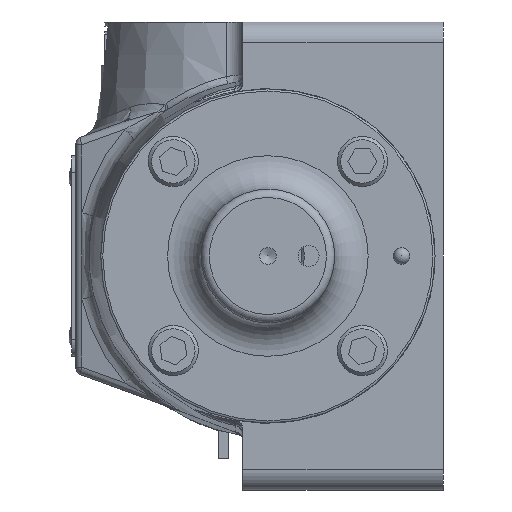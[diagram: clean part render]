
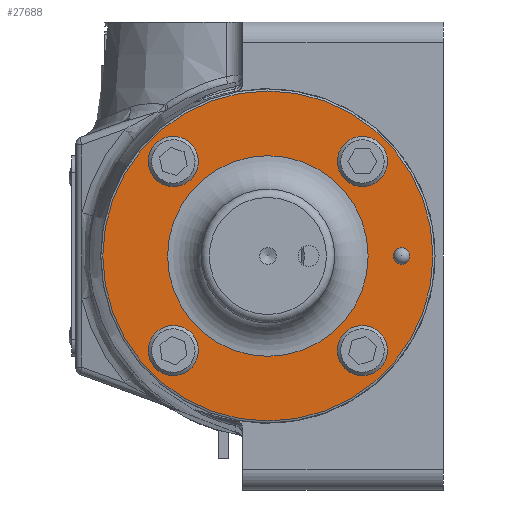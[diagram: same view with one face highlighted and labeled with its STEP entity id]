
A CAD part, left-side view. The second image highlights one B-rep face of the part: STEP entity #27688.
In plain terms, the highlighted planar face has unit normal (-1, 0, 0).
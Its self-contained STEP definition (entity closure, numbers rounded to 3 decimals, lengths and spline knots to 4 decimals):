
#5254=FACE_BOUND('',#8960,.T.);
#5255=FACE_BOUND('',#8961,.T.);
#5256=FACE_BOUND('',#8962,.T.);
#5257=FACE_BOUND('',#8963,.T.);
#5258=FACE_BOUND('',#8964,.T.);
#5259=FACE_BOUND('',#8965,.T.);
#6888=FACE_OUTER_BOUND('',#8959,.T.);
#8959=EDGE_LOOP('',(#21925));
#8960=EDGE_LOOP('',(#21926));
#8961=EDGE_LOOP('',(#21927));
#8962=EDGE_LOOP('',(#21928));
#8963=EDGE_LOOP('',(#21929));
#8964=EDGE_LOOP('',(#21930));
#8965=EDGE_LOOP('',(#21931));
#10361=CIRCLE('',#29863,3.1353);
#10362=CIRCLE('',#29864,0.4763);
#10363=CIRCLE('',#29865,0.4763);
#10364=CIRCLE('',#29866,0.4763);
#10365=CIRCLE('',#29867,0.4763);
#10366=CIRCLE('',#29868,0.1588);
#10367=CIRCLE('',#29869,1.905);
#12446=VERTEX_POINT('',#55973);
#12447=VERTEX_POINT('',#55975);
#12448=VERTEX_POINT('',#55977);
#12449=VERTEX_POINT('',#55979);
#12450=VERTEX_POINT('',#55981);
#12451=VERTEX_POINT('',#55983);
#12452=VERTEX_POINT('',#55985);
#15726=EDGE_CURVE('',#12446,#12446,#10361,.T.);
#15727=EDGE_CURVE('',#12447,#12447,#10362,.T.);
#15728=EDGE_CURVE('',#12448,#12448,#10363,.T.);
#15729=EDGE_CURVE('',#12449,#12449,#10364,.T.);
#15730=EDGE_CURVE('',#12450,#12450,#10365,.T.);
#15731=EDGE_CURVE('',#12451,#12451,#10366,.T.);
#15732=EDGE_CURVE('',#12452,#12452,#10367,.T.);
#21925=ORIENTED_EDGE('',*,*,#15726,.F.);
#21926=ORIENTED_EDGE('',*,*,#15727,.T.);
#21927=ORIENTED_EDGE('',*,*,#15728,.T.);
#21928=ORIENTED_EDGE('',*,*,#15729,.T.);
#21929=ORIENTED_EDGE('',*,*,#15730,.T.);
#21930=ORIENTED_EDGE('',*,*,#15731,.T.);
#21931=ORIENTED_EDGE('',*,*,#15732,.F.);
#24820=PLANE('',#29862);
#27688=ADVANCED_FACE('',(#6888,#5254,#5255,#5256,#5257,#5258,#5259),#24820,
 .F.);
#29862=AXIS2_PLACEMENT_3D('',#55972,#34896,#34897);
#29863=AXIS2_PLACEMENT_3D('',#55974,#34898,#34899);
#29864=AXIS2_PLACEMENT_3D('',#55976,#34900,#34901);
#29865=AXIS2_PLACEMENT_3D('',#55978,#34902,#34903);
#29866=AXIS2_PLACEMENT_3D('',#55980,#34904,#34905);
#29867=AXIS2_PLACEMENT_3D('',#55982,#34906,#34907);
#29868=AXIS2_PLACEMENT_3D('',#55984,#34908,#34909);
#29869=AXIS2_PLACEMENT_3D('',#55986,#34910,#34911);
#34896=DIRECTION('center_axis',(1.,0.,0.));
#34897=DIRECTION('ref_axis',(0.,0.,-1.));
#34898=DIRECTION('center_axis',(1.,0.,0.));
#34899=DIRECTION('ref_axis',(0.,0.,
-1.));
#34900=DIRECTION('center_axis',(1.,0.,0.));
#34901=DIRECTION('ref_axis',(0.,0.308,-0.951));
#34902=DIRECTION('center_axis',(1.,0.,0.));
#34903=DIRECTION('ref_axis',(0.,0.37,-0.929));
#34904=DIRECTION('center_axis',(1.,0.,0.));
#34905=DIRECTION('ref_axis',(0.,0.696,-0.718));
#34906=DIRECTION('center_axis',(1.,0.,0.));
#34907=DIRECTION('ref_axis',(0.,0.,
-1.));
#34908=DIRECTION('center_axis',(1.,0.,0.));
#34909=DIRECTION('ref_axis',(0.,0.,
-1.));
#34910=DIRECTION('center_axis',(-1.,0.,0.));
#34911=DIRECTION('ref_axis',(0.,0.,
-1.));
#55972=CARTESIAN_POINT('Origin',(-6.1074,0.,0.));
#55973=CARTESIAN_POINT('',(-6.1074,0.,3.1353));
#55974=CARTESIAN_POINT('Origin',(-6.1074,0.,0.));
#55975=CARTESIAN_POINT('',(-6.1074,1.6491,2.2491));
#55976=CARTESIAN_POINT('Origin',(-6.1074,1.7961,1.7961));
#55977=CARTESIAN_POINT('',(-6.1074,1.6197,-1.3536));
#55978=CARTESIAN_POINT('Origin',(-6.1074,1.7961,-1.7961));
#55979=CARTESIAN_POINT('',(-6.1074,-2.1276,-1.4542));
#55980=CARTESIAN_POINT('Origin',(-6.1074,-1.7961,-1.7961));
#55981=CARTESIAN_POINT('',(-6.1074,-1.7961,2.2723));
#55982=CARTESIAN_POINT('Origin',(-6.1074,-1.7961,1.7961));
#55983=CARTESIAN_POINT('',(-6.1074,-2.54,0.1588));
#55984=CARTESIAN_POINT('Origin',(-6.1074,-2.54,0.));
#55985=CARTESIAN_POINT('',(-6.1074,0.,1.905));
#55986=CARTESIAN_POINT('Origin',(-6.1074,0.,0.));
